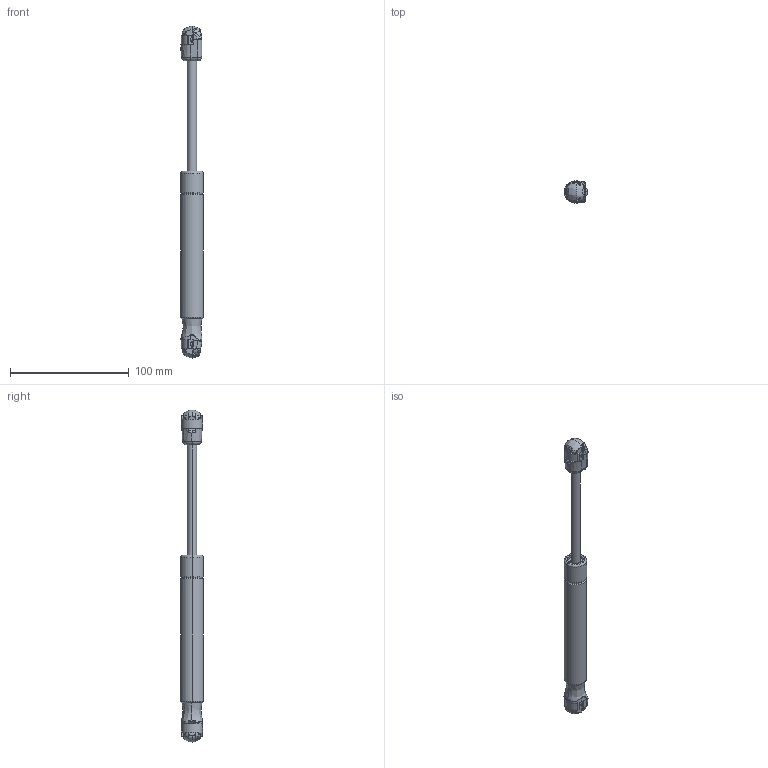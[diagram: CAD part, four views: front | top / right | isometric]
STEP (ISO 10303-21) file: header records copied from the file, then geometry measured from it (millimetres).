
FILE_DESCRIPTION (( 'STEP AP214' ), '1' );
FILE_NAME ('GS08-0340PE10.STEP', '2011-03-23T18:53:35', ( 'user' ), ( '' ), 'SwSTEP 2.0', 'SolidWorks 2011', '' );
FILE_SCHEMA (( 'AUTOMOTIVE_DESIGN' ));
Length unit declared in the file: millimetre
Products named in the file (10): 7175NH_B-SOCKET_FLARED1; 7175NH_B-SOCKET_FLARED2-2; 7175NH_B-SOCKET_FLARED1-2; 4098DY_B-SOCKETa; 4098DY_B-SOCKET2-4; 4098DY_B-SOCKET1-4; GS08-0340PE10-NC; GS08-0340PE10-SHAFT; GS08-0340PE10-TUBE; GS08-0340PE10
Assembly tree (9 placements, depth 3):
  GS08-0340PE10
    7175NH_B-SOCKET_FLARED1
      7175NH_B-SOCKET_FLARED1-2
      7175NH_B-SOCKET_FLARED2-2
    GS08-0340PE10-NC
      GS08-0340PE10-TUBE
      GS08-0340PE10-SHAFT
    4098DY_B-SOCKETa
      4098DY_B-SOCKET2-4
      4098DY_B-SOCKET1-4
Bounding box: 19.05 x 19 x 280 mm (x, y, z)
Volume: 45133.3 mm3; surface area: 19812.4 mm2
Topology: 6 solids, 6 shells, 403 faces, 1085 edges, 683 vertices
Faces by surface type: bspline 140, plane 119, cylinder 118, cone 18, torus 8
Entity records: 18249 total; most frequent: CARTESIAN_POINT 7604, ORIENTED_EDGE 2152, DIRECTION 1574, EDGE_CURVE 1076, VERTEX_POINT 682, AXIS2_PLACEMENT_3D 596, EDGE_LOOP 408, ADVANCED_FACE 403
